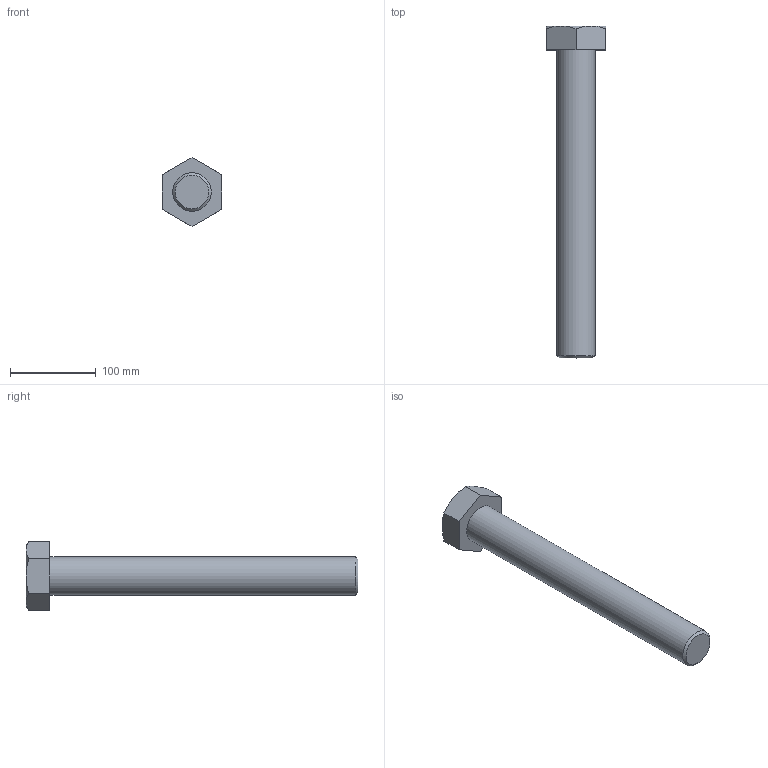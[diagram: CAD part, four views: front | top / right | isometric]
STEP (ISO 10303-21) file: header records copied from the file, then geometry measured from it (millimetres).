
FILE_DESCRIPTION(/* description */ (''),/* implementation_level */ '2;1');
FILE_NAME(/* name */ 'C:\Users\unitec\Documents\Inventor\各種小物\JIS\JIS B 1180 六角ボルト 等級C\hbc45\M45x360.stp',/* time_stamp */ '2015-02-13T14:58:23+09:00',/* author */ ('unitec'),/* organization */ (''),/* preprocessor_version */ 'ST-DEVELOPER v15.2',/* originating_system */ 'Autodesk Inventor 2014',/* authorisation */ '');
FILE_SCHEMA (('AUTOMOTIVE_DESIGN { 1 0 10303 214 3 1 1 }'));
Length unit declared in the file: millimetre
Products named in the file (1): M45x360
Bounding box: 70 x 388 x 80.83 mm (x, y, z)
Volume: 690485.2 mm3; surface area: 65733.1 mm2
Topology: 1 solids, 1 shells, 17 faces, 35 edges, 21 vertices
Faces by surface type: plane 9, cone 7, cylinder 1
Full cylindrical faces by diameter (mm): 45 x1
Entity records: 441 total; most frequent: CARTESIAN_POINT 96, ORIENTED_EDGE 66, DIRECTION 66, EDGE_CURVE 33, AXIS2_PLACEMENT_3D 27, VERTEX_POINT 21, EDGE_LOOP 20, ADVANCED_FACE 17
